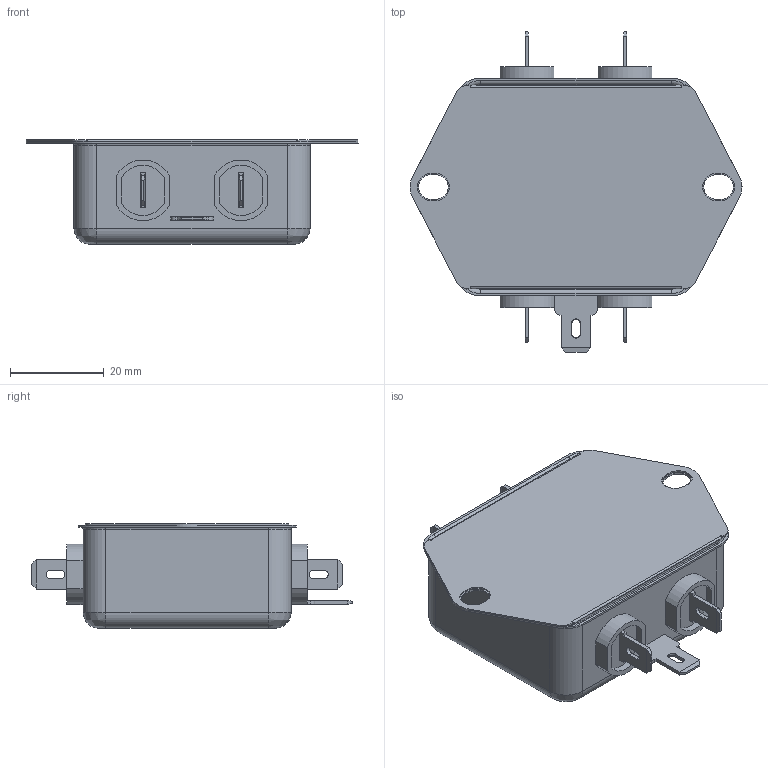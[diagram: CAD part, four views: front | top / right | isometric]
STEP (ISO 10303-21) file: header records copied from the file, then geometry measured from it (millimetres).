
FILE_DESCRIPTION((''),'2;1');
FILE_NAME('K:\Development\Product_FN\A Redesign FN2000_FN600\FN2030\3D FILE LIBRARY\FN2030-6-06.stp','2012-08-06T10:25:16',('Fiona.chen'),(''),'Autodesk Inventor 2010','Autodesk Inventor 2010','');
FILE_SCHEMA(('AUTOMOTIVE_DESIGN { 1 0 10303 214 1 1 1 1 }'));
Length unit declared in the file: millimetre
Products named in the file (1): FN2030-6-06_包覆面提取_2
Bounding box: 71 x 68.6 x 22.3 mm (x, y, z)
Volume: 50961.8 mm3; surface area: 11597.7 mm2
Topology: 1 solids, 5 shells, 552 faces, 1534 edges, 988 vertices
Faces by surface type: plane 394, cylinder 138, bspline 12, cone 4, torus 4
Entity records: 18544 total; most frequent: CARTESIAN_POINT 3759, ORIENTED_EDGE 3068, DIRECTION 2956, EDGE_CURVE 1534, VECTOR 1134, LINE 1134, VERTEX_POINT 988, AXIS2_PLACEMENT_3D 911
